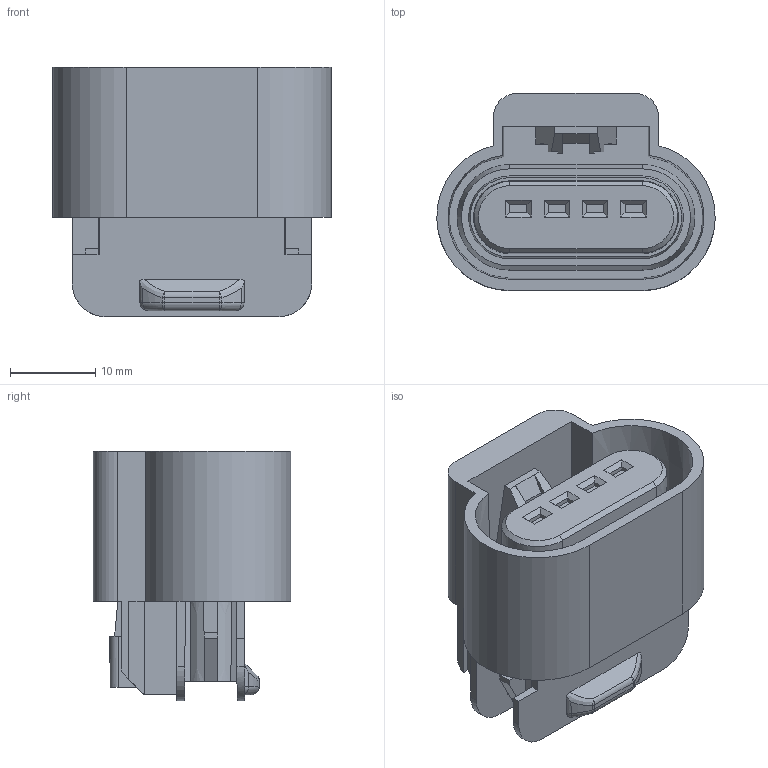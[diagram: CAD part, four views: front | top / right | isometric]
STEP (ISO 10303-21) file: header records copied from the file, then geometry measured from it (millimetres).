
FILE_DESCRIPTION(/* description */ (''),/* implementation_level */ '2;1');
FILE_NAME(/* name */ '15487756-ENV1101.stp',/* time_stamp */ '2019-07-22T11:38:05+05:00',/* author */ (''),/* organization */ (''),/* preprocessor_version */ 'ST-DEVELOPER v16',/* originating_system */ 'SIEMENS PLM Software NX 11.0',/* authorisation */ '');
FILE_SCHEMA (('AUTOMOTIVE_DESIGN { 1 0 10303 214 3 1 1 1 }'));
Length unit declared in the file: millimetre
Products named in the file (1): 15487756-ENV11_01-CONN
Bounding box: 32.65 x 23.13 x 29.3 mm (x, y, z)
Volume: 9873.9 mm3; surface area: 6908 mm2
Topology: 1 solids, 1 shells, 213 faces, 579 edges, 372 vertices
Faces by surface type: plane 163, cone 20, cylinder 16, bspline 6, sphere 6, torus 2
Entity records: 6726 total; most frequent: CARTESIAN_POINT 1356, ORIENTED_EDGE 1150, DIRECTION 1046, EDGE_CURVE 575, LINE 462, VECTOR 462, VERTEX_POINT 372, AXIS2_PLACEMENT_3D 292
